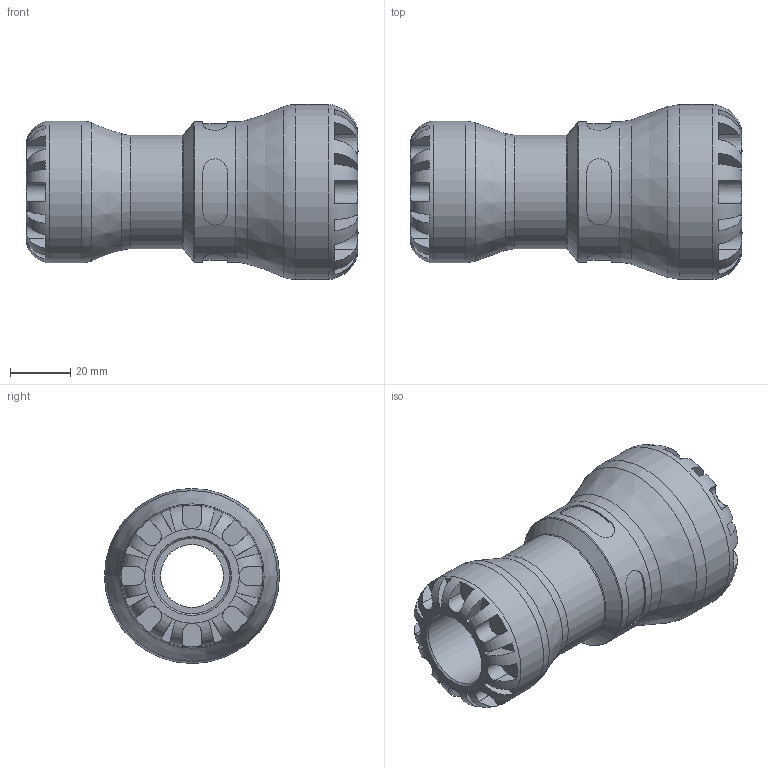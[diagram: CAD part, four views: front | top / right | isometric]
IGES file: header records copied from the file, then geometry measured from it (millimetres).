
Global section: file name: 101100032025_191100032025.ipt; native system: Autodesk Inventor 2015; preprocessor: unknown; author: KIM; date: 20190627.094236; units: millimetre
Bounding box: 110 x 58 x 58 mm (x, y, z)
Volume: 117479.2 mm3; surface area: 31947 mm2
Topology: 1 solids, 1 shells, 172 faces, 451 edges, 286 vertices
Faces by surface type: plane 108, revolution 37, cylinder 24, cone 3
Full cylindrical faces by diameter (mm): 37.6 x1, 46.4 x1, 47 x1, 58 x1
